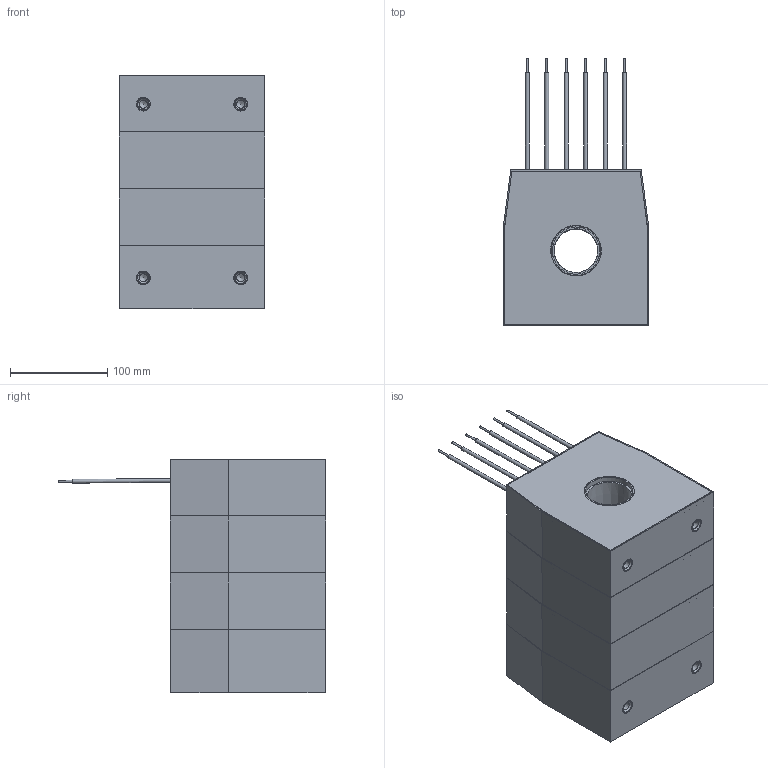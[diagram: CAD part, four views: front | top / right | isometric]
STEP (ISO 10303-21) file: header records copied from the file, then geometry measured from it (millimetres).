
FILE_DESCRIPTION(('STEP AP203'), '1');
FILE_NAME('ÒØÏ-ÍÒÇ-0,66-64Ñ (45 ìì, 4-é ãàáàðèò)', '2025-08-27T09:31:30', ('UNSPECIFIED'), ('UNSPECIFIED'), 'ASCON STEP Converter 1.3', 'ASCON Math Kernel', '');
FILE_SCHEMA(('CONFIG_CONTROL_DESIGN'));
Length unit declared in the file: millimetre
Assembly tree (19 placements, depth 2):
  (unnamed)
    (unnamed)
    (unnamed)  x2
    (unnamed)
    (unnamed)  x4
    (unnamed)  x4
    (unnamed)
    (unnamed)  x6
Bounding box: 150 x 274.82 x 240.5 mm (x, y, z)
Volume: 773381.9 mm3; surface area: 512157.6 mm2
Topology: 19 solids, 19 shells, 309 faces, 688 edges, 448 vertices
Faces by surface type: plane 197, cylinder 76, cone 28, torus 8
Full cylindrical faces by diameter (mm): 2 x6, 3.5 x1, 3.9 x6, 4 x4, 6 x12, 8.376 x4, 14 x8, 17 x4, 45 x1, 48.599 x8, 48.6 x1, 51 x1, 55.05 x1, 58.6 x1, 65.05 x1, 68.6 x1
Entity records: 7290 total; most frequent: CARTESIAN_POINT 924, DIRECTION 876, ORIENTED_EDGE 790, EDGE_CURVE 395, LINE 300, VECTOR 300, AXIS2_PLACEMENT_3D 288, VERTEX_POINT 287
